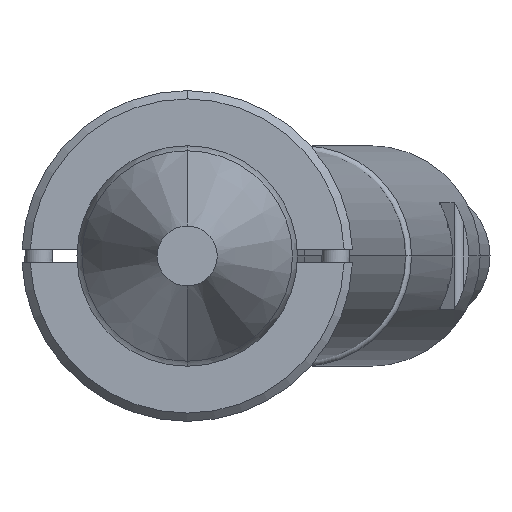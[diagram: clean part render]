
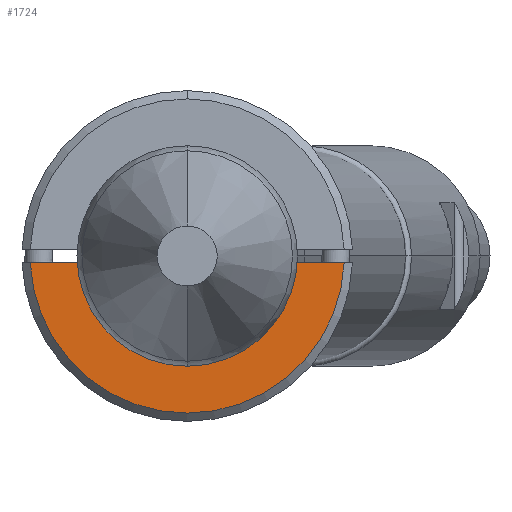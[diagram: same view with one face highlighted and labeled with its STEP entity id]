
A CAD part, front view. The second image highlights one B-rep face of the part: STEP entity #1724.
In plain terms, the highlighted planar face has unit normal (0, -1, 0).
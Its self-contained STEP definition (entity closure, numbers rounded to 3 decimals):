
#44 = CIRCLE ( 'NONE', #317, 3.2 ) ;
#64 = DIRECTION ( 'NONE',  ( 1., 0., 0. ) ) ;
#94 = EDGE_CURVE ( 'NONE', #2154, #1012, #1621, .T. ) ;
#197 = ORIENTED_EDGE ( 'NONE', *, *, #873, .T. ) ;
#245 = CARTESIAN_POINT ( 'NONE',  ( 0., -6., 0. ) ) ;
#249 = AXIS2_PLACEMENT_3D ( 'NONE', #1516, #1438, #1813 ) ;
#317 = AXIS2_PLACEMENT_3D ( 'NONE', #245, #3701, #2460 ) ;
#389 = ORIENTED_EDGE ( 'NONE', *, *, #2872, .F. ) ;
#715 = CIRCLE ( 'NONE', #1701, 5.7 ) ;
#792 = EDGE_CURVE ( 'NONE', #2206, #2844, #2952, .T. ) ;
#800 = CARTESIAN_POINT ( 'NONE',  ( -5.695, -6., -0.25 ) ) ;
#809 = ORIENTED_EDGE ( 'NONE', *, *, #2587, .T. ) ;
#873 = EDGE_CURVE ( 'NONE', #2154, #2206, #44, .T. ) ;
#928 = LINE ( 'NONE', #2193, #1916 ) ;
#1012 = VERTEX_POINT ( 'NONE', #4066 ) ;
#1053 = CARTESIAN_POINT ( 'NONE',  ( 0., -6., 0. ) ) ;
#1242 = ORIENTED_EDGE ( 'NONE', *, *, #792, .T. ) ;
#1328 = CARTESIAN_POINT ( 'NONE',  ( 3.19, -6., -0.25 ) ) ;
#1379 = FACE_OUTER_BOUND ( 'NONE', #1484, .T. ) ;
#1437 = VECTOR ( 'NONE', #64, 1000. ) ;
#1438 = DIRECTION ( 'NONE',  ( 0., 1., 0. ) ) ;
#1454 = DIRECTION ( 'NONE',  ( 0., -1., 0. ) ) ;
#1484 = EDGE_LOOP ( 'NONE', ( #389, #809, #2679, #197, #1242 ) ) ;
#1516 = CARTESIAN_POINT ( 'NONE',  ( 0., -6., 0. ) ) ;
#1529 = CARTESIAN_POINT ( 'NONE',  ( -3.19, -6., -0.25 ) ) ;
#1621 = LINE ( 'NONE', #3138, #1437 ) ;
#1652 = CARTESIAN_POINT ( 'NONE',  ( -6., -6., 0. ) ) ;
#1674 = PLANE ( 'NONE',  #3285 ) ;
#1701 = AXIS2_PLACEMENT_3D ( 'NONE', #1053, #1454, #3344 ) ;
#1724 = ADVANCED_FACE ( 'NONE', ( #1379 ), #1674, .T. ) ;
#1813 = DIRECTION ( 'NONE',  ( 0., 0., -1. ) ) ;
#1916 = VECTOR ( 'NONE', #3448, 1000. ) ;
#2154 = VERTEX_POINT ( 'NONE', #1328 ) ;
#2193 = CARTESIAN_POINT ( 'NONE',  ( -6., -6., -0.25 ) ) ;
#2206 = VERTEX_POINT ( 'NONE', #3268 ) ;
#2460 = DIRECTION ( 'NONE',  ( 0., 0., -1. ) ) ;
#2587 = EDGE_CURVE ( 'NONE', #3786, #1012, #715, .T. ) ;
#2652 = DIRECTION ( 'NONE',  ( 0., 0., -1. ) ) ;
#2679 = ORIENTED_EDGE ( 'NONE', *, *, #94, .F. ) ;
#2844 = VERTEX_POINT ( 'NONE', #1529 ) ;
#2872 = EDGE_CURVE ( 'NONE', #3786, #2844, #928, .T. ) ;
#2952 = CIRCLE ( 'NONE', #249, 3.2 ) ;
#3138 = CARTESIAN_POINT ( 'NONE',  ( -6., -6., -0.25 ) ) ;
#3268 = CARTESIAN_POINT ( 'NONE',  ( 0., -6., -3.2 ) ) ;
#3285 = AXIS2_PLACEMENT_3D ( 'NONE', #1652, #3328, #2652 ) ;
#3328 = DIRECTION ( 'NONE',  ( 0., -1., 0. ) ) ;
#3344 = DIRECTION ( 'NONE',  ( 0., 0., -1. ) ) ;
#3448 = DIRECTION ( 'NONE',  ( 1., 0., 0. ) ) ;
#3701 = DIRECTION ( 'NONE',  ( 0., 1., 0. ) ) ;
#3786 = VERTEX_POINT ( 'NONE', #800 ) ;
#4066 = CARTESIAN_POINT ( 'NONE',  ( 5.695, -6., -0.25 ) ) ;
